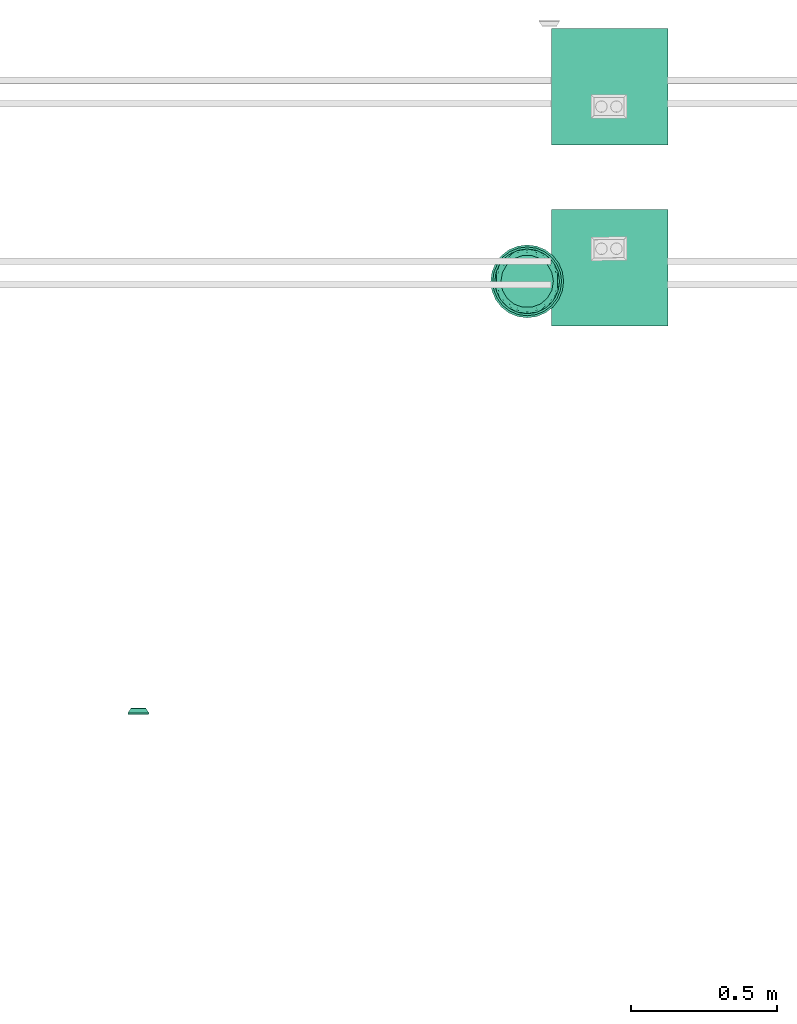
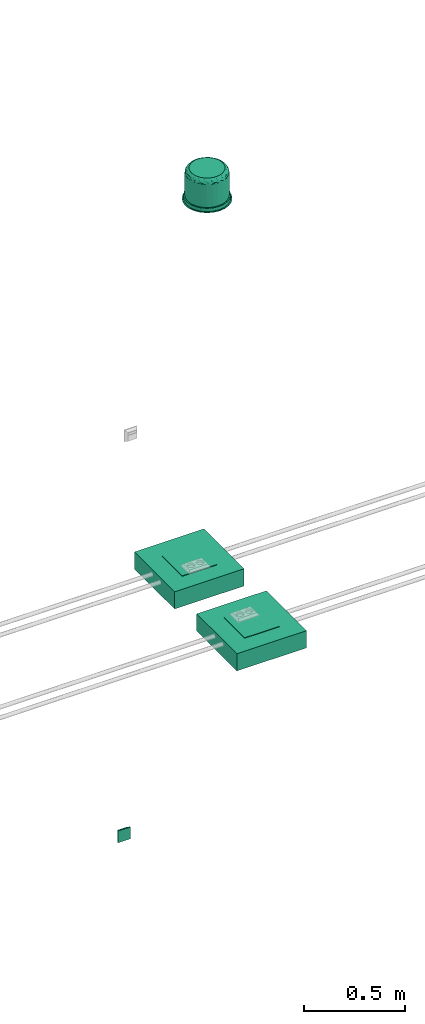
# One storey, part 15 of 24: 4 flow terminals.
"""IFC2X3 building model written with IfcOpenShell, lengths in millimetres."""

from ifc_helpers import new_model, entity, si_unit, converted_unit, derived_unit, direction, frame, origin_with_axes, place, context, subcontext, project, spatial, open_shell, surface_model, source, transform, mapped, type_object, element, save


model = new_model("IFC2X3")

# Units and contexts
model_context = context("Model", 3, precision=0.01, world=frame((0.0, 4.29681676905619e-09, 0.0)), true_north=direction((4.01073788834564e-13, 1.0)))
plan_context = context("Plan", 3, precision=0.01, world=frame((0.0, 4.29681676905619e-09, 0.0)), true_north=direction((4.01073788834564e-13, 1.0)))
body_context = subcontext(model_context, "Body", "Model", "MODEL_VIEW")
ifc_project = project(units=[converted_unit("PLANEANGLEUNIT", "DEGREE", entity("IfcPositiveLengthMeasure", 0.0174532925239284), si_unit("PLANEANGLEUNIT", "RADIAN"), dimensions=[0, 0, 0, 0, 0, 0, 0]), si_unit("AREAUNIT", "SQUARE_METRE"), si_unit("LENGTHUNIT", "METRE", prefix="MILLI"), si_unit("MASSUNIT", "GRAM", prefix="KILO"), si_unit("POWERUNIT", "WATT"), si_unit("PRESSUREUNIT", "PASCAL"), si_unit("FORCEUNIT", "NEWTON", prefix="KILO"), si_unit("ELECTRICVOLTAGEUNIT", "VOLT"), si_unit("ELECTRICCURRENTUNIT", "AMPERE"), si_unit("THERMODYNAMICTEMPERATUREUNIT", "DEGREE_CELSIUS"), si_unit("TIMEUNIT", "SECOND"), si_unit("VOLUMEUNIT", "CUBIC_METRE"), derived_unit("LINEARVELOCITYUNIT", [(si_unit("LENGTHUNIT", "METRE"), 1), (si_unit("TIMEUNIT", "SECOND"), -1)]), derived_unit("VOLUMETRICFLOWRATEUNIT", [(si_unit("VOLUMEUNIT", "CUBIC_METRE"), 1), (si_unit("TIMEUNIT", "SECOND"), -1)]), derived_unit("THERMALTRANSMITTANCEUNIT", [(si_unit("POWERUNIT", "WATT"), 1), (si_unit("THERMODYNAMICTEMPERATUREUNIT", "KELVIN"), -1), (si_unit("AREAUNIT", "SQUARE_METRE"), -1)]), derived_unit("SOUNDPRESSUREUNIT", [(si_unit("PRESSUREUNIT", "PASCAL"), 1)])], contexts=[model_context, plan_context])

# Site, building, storey
site_placement = place(None, frame((0.0, -4.29681676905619e-09, 0.0), z_axis=(0.0, 0.0, 1.0), x_axis=(1.0, 0.0, 0.0)))
site = spatial("IfcSite", under=ifc_project, at=site_placement, Name="ENGM", CompositionType="ELEMENT")
building_placement = place(site_placement, frame((0.0, 4.29681676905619e-09, 0.0), z_axis=(0.0, 0.0, 1.0), x_axis=(1.0, 0.0, 0.0)))
building = spatial("IfcBuilding", under=site, at=building_placement, Name="TH", CompositionType="ELEMENT")
storey_placement = place(building_placement, frame((0.0, 0.0, 210200.0), z_axis=(0.0, 0.0, 1.0), x_axis=(1.0, 0.0, 0.0)))
storey = spatial("IfcBuildingStorey", under=building, at=storey_placement, Name="Nivå F - 0,7 m", CompositionType="ELEMENT", Elevation=210200.0)

# Flow terminals
electric_appliance_type_1 = type_object("IfcElectricApplianceType", Name="Gulvboks 400x400", PredefinedType="NOTDEFINED")
shared_shape_1 = source(origin_with_axes(), body_context, "Body", "SurfaceModel", [
    surface_model("IfcShellBasedSurfaceModel", [(199.96, -199.96, -8.96812), (199.96, 200.0, -8.96812), (-200.0, 200.0, -8.96812), (-200.0, -199.96, -8.96812), (-200.0, -199.96, -108.96812), (-200.0, 200.0, -108.96812), (199.96, -199.96, -108.96812), (199.96, 200.0, -108.96812), (99.91278, -102.96181, -1.48406), (99.91278, 100.0, -1.48406), (-100.0, -102.96181, -1.48406), (-100.0, 100.0, -1.48406), (-100.0, -102.96181, -4.48406), (-100.0, 100.0, -4.48406), (99.91278, 100.0, -4.48406), (99.91278, -102.96181, -4.48406), (199.96, -199.96, -4.48406), (199.96, 200.0, -4.48406), (-200.0, 200.0, -4.48406), (-200.0, -199.96, -4.48406), (-200.0, -199.96, -104.48406), (-200.0, 200.0, -104.48406), (199.96, -199.96, -104.48406), (199.96, 200.0, -104.48406)], [open_shell([[[0, 1, 2]], [[2, 3, 0]], [[4, 5, 6]], [[7, 6, 5]], [[2, 1, 7]], [[7, 5, 2]], [[3, 2, 5]], [[5, 4, 3]], [[0, 3, 4]], [[4, 6, 0]], [[1, 0, 6]], [[6, 7, 1]], [[8, 9, 10]], [[11, 10, 9]], [[12, 13, 14]], [[14, 15, 12]], [[11, 9, 14]], [[14, 13, 11]], [[10, 11, 13]], [[13, 12, 10]], [[8, 10, 12]], [[12, 15, 8]], [[9, 8, 15]], [[15, 14, 9]], [[16, 17, 18]], [[18, 19, 16]], [[20, 21, 22]], [[23, 22, 21]], [[18, 17, 23]], [[23, 21, 18]], [[19, 18, 21]], [[21, 20, 19]], [[16, 19, 20]], [[20, 22, 16]], [[17, 16, 22]], [[22, 23, 17]]])]),
])
for number, where, z_axis, x_axis, name in (
    (1, (900999.725, 486999.56407, 1.5), (0.0, 0.0, 1.0), (1.0, 0.0, 0.0), "Gulvboks 400x400"),
    (2, (900999.725, 486379.56407, 1.5), (0.0, 0.0, 1.0), (1.0, 0.0, 0.0), "Gulvboks 400x400"),
):
    element("IfcFlowTerminal", number, at=place(storey_placement, frame(where, z_axis=z_axis, x_axis=x_axis)), inside=storey, type_object=electric_appliance_type_1, Name=name, context=body_context, shape_type="MappedRepresentation", body=[
        mapped(shared_shape_1, transform((0.0, 0.0, 0.0), scale=1.0)),
    ])
outlet_type = type_object("IfcOutletType", Name="Datauttak dobbel Vegg - IKT", PredefinedType="COMMUNICATIONSOUTLET")
shared_shape_2 = source(origin_with_axes(), body_context, "Body", "SurfaceModel", [
    surface_model("IfcShellBasedSurfaceModel", [(35.5, 5.05547, 35.5832), (25.5, 20.05547, 25.5832), (-35.5, 5.05547, 35.5832), (-25.5, 20.05547, 25.5832), (-35.5, 4.94453, 35.41679), (-25.5, 19.94453, 25.41679), (25.5, 19.94453, 25.41679), (35.5, 4.94453, 35.41679), (35.5, 4.94453, -35.41679), (25.5, 19.94453, -25.41679), (-35.5, 4.94453, -35.41679), (-25.5, 19.94453, -25.41679), (-35.5, 5.05547, -35.5832), (-25.5, 20.05547, -25.5832), (25.5, 20.05547, -25.5832), (35.5, 5.05547, -35.5832), (-25.5832, 20.05547, -25.5), (-35.5832, 5.05547, -35.5), (-35.5832, 5.05547, 35.5), (-25.5832, 20.05547, 25.5), (-25.41679, 19.94453, 25.5), (-35.41679, 4.94453, 35.5), (-25.41679, 19.94453, -25.5), (-35.41679, 4.94453, -35.5), (25.41679, 19.94453, -25.5), (35.41679, 4.94453, -35.5), (35.41679, 4.94453, 35.5), (25.41679, 19.94453, 25.5), (25.5832, 20.05547, 25.5), (35.5832, 5.05547, 35.5), (25.5832, 20.05547, -25.5), (35.5832, 5.05547, -35.5), (35.4, 5.0, -35.5), (35.4, 0.0, -35.5), (35.4, 0.0, 35.5), (35.4, 5.0, 35.5), (35.6, 5.0, 35.5), (35.6, 0.0, 35.5), (35.6, 0.0, -35.5), (35.6, 5.0, -35.5), (-35.5, 0.0, -35.6), (-35.5, 5.0, -35.6), (35.5, 5.0, -35.6), (35.5, 0.0, -35.6), (35.5, 0.0, -35.4), (35.5, 5.0, -35.4), (-35.5, 5.0, -35.4), (-35.5, 0.0, -35.4), (-35.6, 5.0, -35.5), (-35.6, 0.0, -35.5), (-35.6, 0.0, 35.5), (-35.6, 5.0, 35.5), (-35.4, 5.0, 35.5), (-35.4, 0.0, 35.5), (-35.4, 0.0, -35.5), (-35.4, 5.0, -35.5), (-35.5, -0.1, -35.5), (35.5, -0.1, -35.5), (35.5, -0.1, 35.5), (-35.5, -0.1, 35.5), (-35.5, 0.1, 35.5), (35.5, 0.1, 35.5), (35.5, 0.1, -35.5), (-35.5, 0.1, -35.5), (-35.5, 0.0, 35.4), (-35.5, 5.0, 35.4), (35.5, 5.0, 35.4), (35.5, 0.0, 35.4), (35.5, 0.0, 35.6), (35.5, 5.0, 35.6), (-35.5, 5.0, 35.6), (-35.5, 0.0, 35.6), (-25.5, 19.9, -25.5), (25.5, 19.9, -25.5), (25.5, 19.9, 25.5), (-25.5, 19.9, 25.5), (-25.5, 20.1, 25.5), (25.5, 20.1, 25.5), (25.5, 20.1, -25.5), (-25.5, 20.1, -25.5), (-17.5, 21.91, -6.5), (-2.5, 21.91, -6.5), (-17.5, 21.91, 8.5), (-2.5, 21.91, 8.5), (-17.5, 22.11, 8.5), (-2.5, 22.11, 8.5), (-17.5, 22.11, -6.5), (-2.5, 22.11, -6.5), (2.5, 21.91, -6.5), (17.5, 21.91, -6.5), (17.5, 21.91, 8.5), (2.5, 21.91, 8.5), (2.5, 22.11, 8.5), (17.5, 22.11, 8.5), (2.5, 22.11, -6.5), (17.5, 22.11, -6.5), (-25.5, 22.0, 25.5), (-25.5, 20.0, 25.5), (25.5, 20.0, 25.5), (25.5, 22.0, 25.5), (25.5, 22.0, 20.5), (25.5, 20.0, 20.5), (-25.5, 20.0, 20.5), (-25.5, 22.0, 20.5), (-25.5, 22.0, 10.5), (-25.5, 20.0, 10.5), (25.5, 20.0, 10.5), (25.5, 22.0, 10.5), (25.5, 22.0, -25.5), (25.5, 20.0, -25.5), (-25.5, 20.0, -25.5), (-25.5, 22.0, -25.5)], [open_shell([[[0, 1, 2]], [[3, 2, 1]], [[4, 5, 6]], [[6, 7, 4]], [[3, 1, 6]], [[6, 5, 3]], [[2, 3, 4]], [[5, 4, 3]], [[0, 2, 7]], [[4, 7, 2]], [[1, 0, 6]], [[7, 6, 0]], [[8, 9, 10]], [[11, 10, 9]], [[12, 13, 14]], [[14, 15, 12]], [[11, 9, 14]], [[14, 13, 11]], [[10, 11, 12]], [[13, 12, 11]], [[8, 10, 12]], [[12, 15, 8]], [[9, 8, 14]], [[15, 14, 8]], [[16, 17, 18]], [[18, 19, 16]], [[20, 21, 22]], [[23, 22, 21]], [[18, 17, 23]], [[23, 21, 18]], [[19, 18, 20]], [[21, 20, 18]], [[16, 19, 20]], [[20, 22, 16]], [[17, 16, 22]], [[22, 23, 17]], [[24, 25, 26]], [[26, 27, 24]], [[28, 29, 30]], [[31, 30, 29]], [[26, 25, 31]], [[31, 29, 26]], [[27, 26, 28]], [[29, 28, 26]], [[24, 27, 28]], [[28, 30, 24]], [[25, 24, 30]], [[30, 31, 25]], [[32, 33, 34]], [[34, 35, 32]], [[36, 37, 38]], [[38, 39, 36]], [[34, 33, 38]], [[38, 37, 34]], [[35, 34, 37]], [[37, 36, 35]], [[32, 35, 36]], [[36, 39, 32]], [[33, 32, 39]], [[39, 38, 33]], [[40, 41, 42]], [[42, 43, 40]], [[44, 45, 46]], [[46, 47, 44]], [[42, 41, 46]], [[46, 45, 42]], [[43, 42, 45]], [[45, 44, 43]], [[40, 43, 44]], [[44, 47, 40]], [[41, 40, 47]], [[47, 46, 41]], [[48, 49, 50]], [[50, 51, 48]], [[52, 53, 54]], [[54, 55, 52]], [[50, 49, 54]], [[54, 53, 50]], [[51, 50, 53]], [[53, 52, 51]], [[48, 51, 52]], [[52, 55, 48]], [[49, 48, 55]], [[55, 54, 49]], [[56, 57, 58]], [[58, 59, 56]], [[60, 61, 62]], [[62, 63, 60]], [[58, 57, 62]], [[62, 61, 58]], [[59, 58, 61]], [[61, 60, 59]], [[56, 59, 60]], [[60, 63, 56]], [[57, 56, 63]], [[63, 62, 57]], [[64, 65, 66]], [[66, 67, 64]], [[68, 69, 70]], [[70, 71, 68]], [[66, 65, 70]], [[70, 69, 66]], [[67, 66, 69]], [[69, 68, 67]], [[64, 67, 68]], [[68, 71, 64]], [[65, 64, 71]], [[71, 70, 65]], [[72, 73, 74]], [[74, 75, 72]], [[76, 77, 78]], [[78, 79, 76]], [[74, 73, 78]], [[78, 77, 74]], [[75, 74, 77]], [[77, 76, 75]], [[72, 75, 76]], [[76, 79, 72]], [[73, 72, 79]], [[79, 78, 73]], [[80, 81, 82]], [[83, 82, 81]], [[84, 85, 86]], [[87, 86, 85]], [[83, 81, 87]], [[87, 85, 83]], [[82, 83, 85]], [[85, 84, 82]], [[80, 82, 84]], [[84, 86, 80]], [[81, 80, 86]], [[86, 87, 81]], [[88, 89, 90]], [[90, 91, 88]], [[92, 93, 94]], [[95, 94, 93]], [[90, 89, 95]], [[95, 93, 90]], [[91, 90, 93]], [[93, 92, 91]], [[88, 91, 92]], [[92, 94, 88]], [[89, 88, 94]], [[94, 95, 89]], [[96, 97, 98]], [[98, 99, 96]], [[100, 101, 102]], [[102, 103, 100]], [[98, 97, 102]], [[102, 101, 98]], [[99, 98, 101]], [[101, 100, 99]], [[96, 99, 100]], [[100, 103, 96]], [[97, 96, 103]], [[103, 102, 97]], [[104, 105, 106]], [[106, 107, 104]], [[108, 109, 110]], [[110, 111, 108]], [[106, 105, 110]], [[110, 109, 106]], [[107, 106, 109]], [[109, 108, 107]], [[104, 107, 108]], [[108, 111, 104]], [[105, 104, 111]], [[111, 110, 105]]])]),
])
flow_terminal_1_placement = place(storey_placement, frame((899383.39199, 484848.26665, 200.0), z_axis=(0.0, 0.0, 1.0), x_axis=(1.0, 0.0, 0.0)))
element("IfcFlowTerminal", 3, at=flow_terminal_1_placement, inside=storey, type_object=outlet_type, Name="Datauttak dobbel Vegg - IKT", context=body_context, shape_type="MappedRepresentation", body=[
    mapped(shared_shape_2, transform((0.0, 0.0, 0.0), scale=1.0)),
])
electric_appliance_type_2 = type_object("IfcElectricApplianceType", Name="Høyttaler innfelt", PredefinedType="NOTDEFINED")
shared_shape_3 = source(origin_with_axes(), body_context, "Body", "SurfaceModel", [
    surface_model("IfcShellBasedSurfaceModel", [(-68.944, 57.85088, 184.0), (-58.59195, 79.97902, 179.50754), (-80.0329, 55.28406, 180.76938), (-78.29994, 75.83774, 166.88554), (-50.40099, 96.24365, 167.73947), (-65.24416, 89.80089, 159.0), (-45.0, 77.94229, 184.0), (104.29833, 0.0, 174.69059), (98.55658, 30.89802, 175.83351), (97.14917, 0.0, 179.3453), (-98.55658, 30.89802, 175.83351), (-104.29833, 0.0, 174.69059), (-97.14917, 0.0, 179.3453), (93.09772, 49.71788, 173.10261), (104.32878, 23.10743, 171.13623), (97.92626, 46.3605, 168.38431), (-15.62834, 88.6327, 184.0), (-30.79138, 92.23996, 180.78615), (-104.32878, 23.10743, 171.13623), (55.89313, 88.54638, 174.18746), (30.93861, 99.42219, 174.89528), (58.59195, 79.97902, 179.50754), (-97.92626, 46.3605, 168.38431), (-93.09772, 49.71788, 173.10261), (-61.47959, 85.0435, 173.90083), (-30.93861, 99.42219, 174.89528), (45.0, 77.94229, 184.0), (68.944, 57.85088, 184.0), (-84.57234, 30.78181, 184.0), (-92.49153, 28.27678, 181.10339), (-89.80089, 65.24416, 159.0), (17.39577, 107.47851, 167.19599), (34.30089, 105.56728, 159.0), (0.0, 111.0, 159.0), (-34.30089, 105.56728, 159.0), (-17.39574, 107.47094, 167.21376), (30.79138, 92.23996, 180.78615), (0.0, 99.14465, 179.50754), (15.62834, 88.6327, 184.0), (-81.90835, 64.40302, 174.81219), (0.05017, 105.30857, 173.41796), (80.0329, 55.28406, 180.76938), (84.57234, 30.78181, 184.0), (90.0, 0.0, 184.0), (92.49153, 28.27678, 181.10339), (50.40099, 96.24365, 167.73947), (89.80089, 65.24416, 159.0), (105.56728, 34.30089, 159.0), (65.24416, 89.80089, 159.0), (-105.56728, 34.30089, 159.0), (78.29994, 75.83774, 166.88554), (105.52114, 29.61929, 165.29825), (90.11049, 46.65977, 177.6147), (-90.11049, 46.65977, 177.6147), (-107.8502, 0.0, 166.3746), (-105.52114, 29.61929, 165.29825), (-90.0, 0.0, 184.0), (81.90835, 64.40302, 174.81219), (-111.0, 0.0, 159.0), (111.0, 0.0, 159.0), (107.8502, 0.0, 166.3746), (68.944, -57.85088, 184.0), (58.59195, -79.97902, 179.50754), (80.0329, -55.28406, 180.76938), (78.29994, -75.83774, 166.88554), (50.40099, -96.24365, 167.73947), (65.24416, -89.80089, 159.0), (45.0, -77.94229, 184.0), (-98.55658, -30.89802, 175.83351), (98.55658, -30.89802, 175.83351), (-93.09772, -49.71788, 173.10261), (-104.32878, -23.10743, 171.13623), (-97.92626, -46.3605, 168.38431), (15.62834, -88.6327, 184.0), (30.79138, -92.23996, 180.78615), (104.32878, -23.10743, 171.13623), (-55.89313, -88.54638, 174.18746), (-30.93861, -99.42219, 174.89528), (-58.59195, -79.97902, 179.50754), (97.92626, -46.3605, 168.38431), (93.09772, -49.71788, 173.10261), (61.47959, -85.0435, 173.90083), (30.93861, -99.42219, 174.89528), (-45.0, -77.94229, 184.0), (-68.944, -57.85088, 184.0), (84.57234, -30.78181, 184.0), (92.49153, -28.27678, 181.10339), (89.80089, -65.24416, 159.0), (-17.39577, -107.47851, 167.19599), (-34.30089, -105.56728, 159.0), (0.0, -111.0, 159.0), (34.30089, -105.56728, 159.0), (17.39574, -107.47094, 167.21376), (81.90835, -64.40302, 174.81219), (-30.79138, -92.23996, 180.78615), (-15.62834, -88.6327, 184.0), (0.0, -99.14465, 179.50754), (-0.05017, -105.30857, 173.41796), (-80.0329, -55.28406, 180.76938), (-84.57234, -30.78181, 184.0), (-92.49153, -28.27678, 181.10339), (-50.40099, -96.24365, 167.73947), (-89.80089, -65.24416, 159.0), (-105.56728, -34.30089, 159.0), (-65.24416, -89.80089, 159.0), (-78.29994, -75.83774, 166.88554), (-90.11049, -46.65977, 177.6147), (-105.52114, -29.61929, 165.29825), (105.56728, -34.30089, 159.0), (90.11049, -46.65977, 177.6147), (105.52114, -29.61929, 165.29825), (-81.90835, -64.40302, 174.81219), (0.0, 0.0, 159.0), (0.0, 0.0, 184.0), (96.12882, -55.5, 159.0), (28.72892, -107.21777, 159.0), (55.5, -96.12882, 159.0), (78.48885, -78.48885, 159.0), (107.21777, -28.72892, 159.0), (-78.48885, -78.48885, 159.0), (-96.12882, 55.5, 159.0), (-55.5, -96.12882, 159.0), (-28.72892, -107.21777, 159.0), (-96.12882, -55.5, 159.0), (-107.21777, -28.72892, 159.0), (107.21777, 28.72892, 159.0), (55.5, 96.12882, 159.0), (96.12882, 55.5, 159.0), (78.48885, 78.48885, 159.0), (28.72892, 107.21777, 159.0), (-28.72892, 107.21777, 159.0), (-107.21777, 28.72892, 159.0), (-78.48885, 78.48885, 159.0), (-55.5, 96.12882, 159.0), (28.72892, 107.21777, 20.0), (-28.72892, 107.21777, 20.0), (0.0, 111.0, 20.0), (96.12882, 55.5, 20.0), (55.5, 96.12882, 20.0), (107.21777, 28.72892, 20.0), (78.48885, 78.48885, 20.0), (-96.12882, 55.5, 20.0), (-78.48885, 78.48885, 20.0), (-55.5, 96.12882, 20.0), (-107.21777, 28.72892, 20.0), (-96.12882, -55.5, 20.0), (-111.0, 0.0, 20.0), (-78.48885, -78.48885, 20.0), (111.0, 0.0, 20.0), (107.21777, -28.72892, 20.0), (96.12882, -55.5, 20.0), (28.72892, -107.21777, 20.0), (55.5, -96.12882, 20.0), (78.48885, -78.48885, 20.0), (-107.21777, -28.72892, 20.0), (-55.5, -96.12882, 20.0), (0.0, -111.0, 20.0), (-28.72892, -107.21777, 20.0), (0.0, -118.0, 20.0), (30.54065, -113.97924, 20.0), (59.0, -102.191, 20.0), (83.4386, -83.4386, 20.0), (102.191, -59.0, 20.0), (113.97924, -30.54065, 20.0), (118.0, 0.0, 20.0), (-30.54065, -113.97924, 20.0), (-83.4386, -83.4386, 20.0), (-59.0, -102.191, 20.0), (-118.0, 0.0, 20.0), (-102.191, -59.0, 20.0), (-113.97924, -30.54065, 20.0), (113.97924, 30.54065, 20.0), (102.191, 59.0, 20.0), (83.4386, 83.4386, 20.0), (59.0, 102.191, 20.0), (30.54065, 113.97924, 20.0), (0.0, 118.0, 20.0), (-30.54065, 113.97924, 20.0), (-102.191, 59.0, 20.0), (-113.97924, 30.54065, 20.0), (-83.4386, 83.4386, 20.0), (-59.0, 102.191, 20.0), (0.0, 118.0, 0.0), (30.54065, 113.97924, 0.0), (59.0, 102.191, 0.0), (-83.4386, 83.4386, 0.0), (83.4386, 83.4386, 0.0), (102.191, 59.0, 0.0), (113.97924, 30.54065, 0.0), (-118.0, 0.0, 0.0), (-113.97924, -30.54065, 0.0), (-30.54065, 113.97924, 0.0), (-59.0, 102.191, 0.0), (-102.191, 59.0, 0.0), (-113.97924, 30.54065, 0.0), (118.0, 0.0, 0.0), (113.97924, -30.54065, 0.0), (102.191, -59.0, 0.0), (83.4386, -83.4386, 0.0), (59.0, -102.191, 0.0), (30.54065, -113.97924, 0.0), (-83.4386, -83.4386, 0.0), (-102.191, -59.0, 0.0), (-30.54065, -113.97924, 0.0), (-59.0, -102.191, 0.0), (0.0, -118.0, 0.0), (-32.35238, 120.74073, 0.0), (-62.5, 108.25318, 0.0), (-88.38835, 88.38835, 0.0), (-108.25318, 62.5, 0.0), (-120.74073, 32.35238, 0.0), (62.5, 108.25318, 0.0), (-125.0, 0.0, 0.0), (0.0, 125.0, 0.0), (32.35238, 120.74073, 0.0), (88.38835, 88.38835, 0.0), (120.74073, 32.35238, 0.0), (108.25318, 62.5, 0.0), (-120.74073, -32.35238, 0.0), (125.0, 0.0, 0.0), (-108.25318, -62.5, 0.0), (-32.35238, -120.74073, 0.0), (-88.38835, -88.38835, 0.0), (-62.5, -108.25318, 0.0), (0.0, -125.0, 0.0), (120.74073, -32.35238, 0.0), (88.38835, -88.38835, 0.0), (108.25318, -62.5, 0.0), (32.35238, -120.74073, 0.0), (62.5, -108.25318, 0.0), (-32.35238, -120.74073, -3.0), (88.38835, -88.38835, -3.0), (0.0, -125.0, -3.0), (-88.38835, -88.38835, -3.0), (-62.5, -108.25318, -3.0), (-108.25318, -62.5, -3.0), (-120.74073, -32.35238, -3.0), (88.38835, 88.38835, -3.0), (32.35238, -120.74073, -3.0), (62.5, -108.25318, -3.0), (120.74073, -32.35238, -3.0), (108.25318, -62.5, -3.0), (125.0, 0.0, -3.0), (-125.0, 0.0, -3.0), (-120.74073, 32.35238, -3.0), (-32.35238, 120.74073, -3.0), (-108.25318, 62.5, -3.0), (-88.38835, 88.38835, -3.0), (-62.5, 108.25318, -3.0), (120.74073, 32.35238, -3.0), (108.25318, 62.5, -3.0), (62.5, 108.25318, -3.0), (0.0, 125.0, -3.0), (32.35238, 120.74073, -3.0), (-84.57234, 30.78181, -6.0), (-102.5, 0.0, -5.0), (-96.31849, 35.05706, -5.0), (-45.0, 77.94229, -6.0), (-78.51955, 65.88573, -5.0), (-51.25, 88.7676, -5.0), (-68.944, 57.85088, -6.0), (-17.79894, 100.94279, -5.0), (-15.62834, 88.6327, -6.0), (-90.0, 0.0, -6.0), (15.62834, 88.6327, -6.0), (45.0, 77.94229, -6.0), (17.79894, 100.94279, -5.0), (51.25, 88.7676, -5.0), (96.31849, 35.05706, -5.0), (102.5, 0.0, -5.0), (90.0, 0.0, -6.0), (78.51955, 65.88573, -5.0), (68.944, 57.85088, -6.0), (84.57234, 30.78181, -6.0), (84.57234, -30.78181, -6.0), (96.31849, -35.05706, -5.0), (45.0, -77.94229, -6.0), (78.51955, -65.88573, -5.0), (51.25, -88.7676, -5.0), (68.944, -57.85088, -6.0), (17.79894, -100.94279, -5.0), (15.62834, -88.6327, -6.0), (-15.62834, -88.6327, -6.0), (-45.0, -77.94229, -6.0), (-17.79894, -100.94279, -5.0), (-51.25, -88.7676, -5.0), (-84.57234, -30.78181, -6.0), (-78.51955, -65.88573, -5.0), (-96.31849, -35.05706, -5.0), (-68.944, -57.85088, -6.0), (0.0, 0.0, -6.0), (106.99386, 34.76441, -3.0), (0.0, 0.0, -3.0), (112.5, 0.0, -3.0), (91.01441, 66.12584, -3.0), (66.12584, 91.01441, -3.0), (34.76441, 106.99386, -3.0), (0.0, 112.5, -3.0), (-91.01441, 66.12584, -3.0), (-106.99386, 34.76441, -3.0), (-66.12584, 91.01441, -3.0), (-34.76441, 106.99386, -3.0), (-112.5, 0.0, -3.0), (66.12584, -91.01441, -3.0), (91.01441, -66.12584, -3.0), (34.76441, -106.99386, -3.0), (106.99386, -34.76441, -3.0), (0.0, -112.5, -3.0), (-66.12584, -91.01441, -3.0), (-34.76441, -106.99386, -3.0), (-91.01441, -66.12584, -3.0), (-106.99386, -34.76441, -3.0)], [open_shell([[[0, 1, 2]], [[3, 4, 5]], [[0, 6, 1]], [[7, 8, 9]], [[10, 11, 12]], [[13, 14, 15]], [[7, 14, 8]], [[6, 16, 17]], [[18, 11, 10]], [[19, 20, 21]], [[22, 23, 3]], [[24, 25, 4]], [[26, 27, 21]], [[28, 2, 29]], [[3, 5, 30]], [[31, 32, 33]], [[33, 34, 35]], [[36, 37, 38]], [[4, 35, 34]], [[1, 24, 39]], [[26, 36, 38]], [[17, 37, 25]], [[20, 31, 40]], [[21, 20, 36]], [[41, 21, 27]], [[41, 27, 42]], [[0, 2, 28]], [[43, 9, 44]], [[20, 19, 45]], [[46, 15, 47]], [[17, 1, 6]], [[31, 20, 45]], [[48, 32, 45]], [[30, 49, 22]], [[34, 5, 4]], [[15, 46, 50]], [[14, 51, 15]], [[48, 50, 46]], [[33, 35, 31]], [[8, 13, 52]], [[2, 39, 53]], [[37, 16, 38]], [[54, 18, 55]], [[28, 29, 56]], [[45, 19, 50]], [[37, 17, 16]], [[1, 17, 25]], [[21, 36, 26]], [[37, 36, 20]], [[1, 39, 2]], [[23, 53, 39]], [[44, 41, 42]], [[57, 21, 41]], [[10, 12, 29]], [[22, 18, 23]], [[13, 8, 14]], [[52, 41, 44]], [[4, 25, 35]], [[25, 37, 40]], [[31, 35, 40]], [[45, 32, 31]], [[22, 3, 30]], [[3, 39, 24]], [[45, 50, 48]], [[50, 57, 13]], [[58, 54, 55]], [[23, 18, 10]], [[59, 47, 51]], [[56, 29, 12]], [[43, 44, 42]], [[8, 44, 9]], [[25, 40, 35]], [[20, 40, 37]], [[25, 24, 1]], [[3, 24, 4]], [[21, 57, 19]], [[50, 19, 57]], [[53, 23, 10]], [[3, 23, 39]], [[10, 29, 53]], [[2, 53, 29]], [[50, 13, 15]], [[52, 13, 57]], [[41, 52, 57]], [[44, 8, 52]], [[55, 18, 22]], [[54, 11, 18]], [[22, 49, 55]], [[55, 49, 58]], [[7, 60, 14]], [[60, 59, 51]], [[60, 51, 14]], [[47, 15, 51]], [[61, 62, 63]], [[64, 65, 66]], [[61, 67, 62]], [[11, 68, 12]], [[69, 7, 9]], [[70, 71, 72]], [[11, 71, 68]], [[67, 73, 74]], [[75, 7, 69]], [[76, 77, 78]], [[79, 80, 64]], [[81, 82, 65]], [[83, 84, 78]], [[85, 63, 86]], [[64, 66, 87]], [[88, 89, 90]], [[90, 91, 92]], [[91, 66, 65]], [[65, 92, 91]], [[62, 81, 93]], [[83, 94, 95]], [[74, 96, 82]], [[77, 88, 97]], [[78, 77, 94]], [[98, 78, 84]], [[98, 84, 99]], [[61, 63, 85]], [[56, 12, 100]], [[77, 76, 101]], [[102, 72, 103]], [[104, 105, 102]], [[88, 77, 101]], [[104, 89, 101]], [[68, 70, 106]], [[74, 62, 67]], [[72, 102, 105]], [[71, 107, 72]], [[87, 108, 79]], [[90, 92, 88]], [[94, 96, 95]], [[63, 93, 109]], [[96, 73, 95]], [[60, 75, 110]], [[85, 86, 43]], [[101, 76, 105]], [[96, 74, 73]], [[62, 74, 82]], [[78, 94, 83]], [[96, 94, 77]], [[62, 93, 63]], [[80, 109, 93]], [[100, 98, 99]], [[111, 78, 98]], [[69, 9, 86]], [[79, 75, 80]], [[70, 68, 71]], [[106, 98, 100]], [[65, 82, 92]], [[82, 96, 97]], [[88, 92, 97]], [[101, 89, 88]], [[79, 64, 87]], [[64, 93, 81]], [[101, 105, 104]], [[105, 111, 70]], [[59, 60, 110]], [[80, 75, 69]], [[58, 103, 107]], [[43, 86, 9]], [[56, 100, 99]], [[68, 100, 12]], [[82, 97, 92]], [[77, 97, 96]], [[82, 81, 62]], [[64, 81, 65]], [[78, 111, 76]], [[105, 76, 111]], [[109, 80, 69]], [[64, 80, 93]], [[69, 86, 109]], [[63, 109, 86]], [[105, 70, 72]], [[106, 70, 111]], [[98, 106, 111]], [[100, 68, 106]], [[110, 75, 79]], [[60, 7, 75]], [[79, 108, 110]], [[110, 108, 59]], [[11, 54, 71]], [[54, 58, 107]], [[54, 107, 71]], [[103, 72, 107]], [[59, 112, 47]], [[47, 112, 46]], [[112, 48, 46]], [[48, 112, 32]], [[112, 33, 32]], [[112, 49, 30]], [[30, 5, 112]], [[34, 33, 112]], [[112, 5, 34]], [[112, 58, 49]], [[112, 87, 66]], [[112, 66, 91]], [[112, 108, 87]], [[59, 108, 112]], [[91, 90, 112]], [[112, 89, 104]], [[112, 104, 102]], [[112, 103, 58]], [[103, 112, 102]], [[89, 112, 90]], [[27, 113, 42]], [[26, 113, 27]], [[113, 26, 38]], [[113, 43, 42]], [[28, 56, 113]], [[0, 28, 113]], [[16, 6, 113]], [[0, 113, 6]], [[38, 16, 113]], [[67, 61, 113]], [[61, 85, 113]], [[113, 85, 43]], [[73, 67, 113]], [[83, 95, 113]], [[84, 83, 113]], [[56, 99, 113]], [[84, 113, 99]], [[73, 113, 95]], [[114, 115, 116]], [[114, 116, 117]], [[114, 118, 59]], [[114, 59, 115]], [[119, 115, 120]], [[90, 121, 122]], [[90, 115, 121]], [[123, 58, 124]], [[121, 115, 119]], [[123, 119, 58]], [[125, 115, 59]], [[126, 125, 127]], [[126, 127, 128]], [[125, 129, 120]], [[129, 125, 126]], [[130, 129, 33]], [[119, 131, 58]], [[120, 131, 119]], [[132, 130, 133]], [[130, 132, 120]], [[129, 130, 120]], [[120, 115, 125]], [[134, 135, 136]], [[137, 134, 138]], [[137, 139, 134]], [[137, 138, 140]], [[141, 134, 139]], [[135, 142, 143]], [[142, 135, 141]], [[144, 145, 146]], [[141, 135, 134]], [[144, 141, 145]], [[141, 139, 147]], [[148, 149, 150]], [[150, 151, 139]], [[152, 151, 150]], [[152, 150, 153]], [[139, 151, 147]], [[146, 145, 154]], [[147, 145, 141]], [[155, 156, 157]], [[155, 147, 151]], [[156, 155, 151]], [[139, 148, 150]], [[124, 154, 145]], [[147, 123, 145]], [[121, 155, 157]], [[147, 155, 119]], [[122, 157, 156]], [[154, 58, 146]], [[154, 124, 58]], [[145, 123, 124]], [[147, 119, 123]], [[121, 119, 155]], [[157, 122, 121]], [[156, 90, 122]], [[115, 151, 152]], [[153, 116, 152]], [[114, 150, 149]], [[153, 150, 117]], [[118, 149, 148]], [[151, 115, 90]], [[152, 116, 115]], [[153, 117, 116]], [[150, 114, 117]], [[118, 114, 149]], [[148, 59, 118]], [[151, 90, 156]], [[125, 148, 139]], [[127, 139, 137]], [[126, 138, 134]], [[129, 134, 136]], [[139, 127, 125]], [[125, 59, 148]], [[140, 128, 127]], [[140, 138, 128]], [[128, 138, 126]], [[134, 129, 126]], [[140, 127, 137]], [[136, 33, 129]], [[130, 135, 143]], [[142, 133, 143]], [[120, 141, 144]], [[142, 141, 132]], [[131, 144, 146]], [[135, 130, 33]], [[143, 133, 130]], [[142, 132, 133]], [[141, 120, 132]], [[131, 120, 144]], [[146, 58, 131]], [[135, 33, 136]], [[158, 159, 160]], [[161, 158, 160]], [[162, 163, 164]], [[158, 161, 162]], [[158, 162, 164]], [[165, 166, 167]], [[166, 165, 158]], [[164, 166, 158]], [[166, 168, 169]], [[169, 168, 170]], [[168, 166, 164]], [[171, 172, 173]], [[168, 171, 173]], [[174, 175, 176]], [[168, 173, 174]], [[177, 174, 176]], [[168, 178, 179]], [[178, 168, 177]], [[180, 177, 181]], [[177, 180, 178]], [[168, 174, 177]], [[171, 168, 164]], [[182, 183, 184]], [[185, 182, 184]], [[186, 187, 188]], [[189, 184, 186]], [[190, 189, 186]], [[191, 185, 192]], [[191, 182, 185]], [[193, 189, 194]], [[185, 184, 193]], [[184, 189, 193]], [[186, 188, 190]], [[195, 196, 197]], [[197, 198, 188]], [[190, 198, 199]], [[198, 190, 188]], [[200, 190, 199]], [[200, 201, 202]], [[202, 190, 200]], [[201, 203, 204]], [[203, 201, 205]], [[205, 201, 200]], [[188, 195, 197]], [[190, 170, 189]], [[202, 169, 190]], [[167, 201, 204]], [[202, 201, 166]], [[165, 204, 203]], [[190, 169, 170]], [[170, 168, 189]], [[165, 167, 204]], [[166, 201, 167]], [[166, 169, 202]], [[158, 165, 203]], [[203, 205, 158]], [[200, 159, 205]], [[199, 160, 200]], [[162, 198, 197]], [[199, 198, 161]], [[163, 197, 196]], [[199, 161, 160]], [[160, 159, 200]], [[164, 163, 196]], [[162, 197, 163]], [[162, 161, 198]], [[195, 164, 196]], [[205, 159, 158]], [[188, 171, 195]], [[187, 172, 188]], [[174, 186, 184]], [[187, 186, 173]], [[175, 184, 183]], [[188, 172, 171]], [[171, 164, 195]], [[175, 174, 184]], [[173, 186, 174]], [[173, 172, 187]], [[176, 175, 183]], [[183, 182, 176]], [[191, 177, 182]], [[192, 181, 191]], [[179, 194, 189]], [[185, 180, 192]], [[192, 180, 181]], [[181, 177, 191]], [[193, 178, 180]], [[193, 194, 178]], [[178, 194, 179]], [[189, 168, 179]], [[193, 180, 185]], [[182, 177, 176]], [[206, 207, 208]], [[206, 208, 209]], [[206, 210, 211]], [[210, 206, 209]], [[211, 210, 212]], [[213, 211, 214]], [[213, 206, 211]], [[215, 216, 217]], [[218, 215, 211]], [[219, 216, 215]], [[218, 211, 212]], [[220, 219, 218]], [[221, 220, 222]], [[220, 221, 219]], [[221, 222, 223]], [[224, 219, 221]], [[225, 226, 227]], [[226, 225, 219]], [[226, 228, 229]], [[228, 226, 219]], [[219, 224, 228]], [[218, 219, 215]], [[230, 231, 232]], [[233, 230, 234]], [[235, 236, 230]], [[235, 230, 233]], [[230, 237, 231]], [[238, 231, 239]], [[238, 232, 231]], [[231, 240, 241]], [[240, 231, 242]], [[231, 237, 242]], [[230, 236, 243]], [[244, 237, 243]], [[245, 244, 246]], [[247, 248, 245]], [[247, 245, 246]], [[237, 244, 245]], [[249, 237, 250]], [[242, 237, 249]], [[251, 252, 253]], [[252, 251, 237]], [[245, 252, 237]], [[237, 230, 243]], [[249, 216, 242]], [[250, 217, 249]], [[211, 237, 251]], [[250, 237, 215]], [[214, 251, 253]], [[249, 217, 216]], [[216, 219, 242]], [[214, 211, 251]], [[215, 237, 211]], [[215, 217, 250]], [[213, 214, 253]], [[253, 252, 213]], [[245, 206, 252]], [[248, 207, 245]], [[209, 247, 246]], [[248, 247, 208]], [[210, 246, 244]], [[248, 208, 207]], [[207, 206, 245]], [[212, 210, 244]], [[209, 246, 210]], [[209, 208, 247]], [[243, 212, 244]], [[252, 206, 213]], [[236, 218, 243]], [[235, 220, 236]], [[223, 233, 234]], [[235, 233, 222]], [[221, 234, 230]], [[236, 220, 218]], [[218, 212, 243]], [[221, 223, 234]], [[222, 233, 223]], [[222, 220, 235]], [[224, 221, 230]], [[230, 232, 224]], [[228, 232, 238]], [[239, 229, 238]], [[227, 241, 240]], [[225, 240, 242]], [[239, 226, 229]], [[229, 228, 238]], [[231, 227, 226]], [[231, 241, 227]], [[227, 240, 225]], [[242, 219, 225]], [[231, 226, 239]], [[232, 228, 224]], [[254, 255, 256]], [[257, 258, 259]], [[256, 258, 260]], [[259, 261, 262]], [[263, 255, 254]], [[258, 257, 260]], [[260, 254, 256]], [[257, 259, 262]], [[261, 264, 262]], [[265, 266, 267]], [[268, 269, 270]], [[267, 271, 272]], [[268, 272, 271]], [[264, 266, 265]], [[265, 267, 272]], [[270, 273, 268]], [[268, 273, 272]], [[266, 264, 261]], [[274, 269, 275]], [[276, 277, 278]], [[275, 277, 279]], [[278, 280, 281]], [[270, 269, 274]], [[277, 276, 279]], [[279, 274, 275]], [[276, 278, 281]], [[280, 282, 281]], [[283, 284, 285]], [[286, 287, 288]], [[285, 287, 289]], [[288, 255, 263]], [[282, 284, 283]], [[287, 286, 289]], [[289, 283, 285]], [[286, 288, 263]], [[284, 282, 280]], [[273, 290, 272]], [[272, 290, 265]], [[264, 265, 290]], [[273, 270, 290]], [[290, 263, 254]], [[290, 254, 260]], [[290, 257, 262]], [[257, 290, 260]], [[290, 262, 264]], [[290, 279, 276]], [[290, 274, 279]], [[270, 274, 290]], [[290, 276, 281]], [[290, 282, 283]], [[290, 283, 289]], [[290, 286, 263]], [[286, 290, 289]], [[282, 290, 281]], [[291, 292, 293]], [[294, 292, 291]], [[294, 295, 292]], [[296, 292, 295]], [[296, 297, 292]], [[298, 299, 292]], [[292, 300, 298]], [[292, 297, 301]], [[301, 300, 292]], [[299, 302, 292]], [[303, 304, 292]], [[305, 303, 292]], [[304, 306, 292]], [[292, 306, 293]], [[292, 307, 305]], [[308, 309, 292]], [[310, 308, 292]], [[302, 311, 292]], [[310, 292, 311]], [[307, 292, 309]], [[255, 302, 299]], [[258, 298, 300]], [[299, 298, 256]], [[300, 301, 259]], [[255, 299, 256]], [[300, 259, 258]], [[258, 256, 298]], [[259, 301, 261]], [[301, 297, 261]], [[266, 297, 296]], [[291, 293, 269]], [[267, 296, 295]], [[295, 271, 267]], [[267, 266, 296]], [[291, 268, 294]], [[268, 291, 269]], [[294, 268, 271]], [[294, 271, 295]], [[297, 266, 261]], [[269, 293, 306]], [[277, 304, 303]], [[306, 304, 275]], [[303, 305, 278]], [[269, 306, 275]], [[303, 278, 277]], [[277, 275, 304]], [[278, 305, 280]], [[305, 307, 280]], [[284, 307, 309]], [[287, 308, 310]], [[309, 308, 285]], [[310, 311, 288]], [[308, 287, 285]], [[285, 284, 309]], [[311, 255, 288]], [[288, 287, 310]], [[311, 302, 255]], [[307, 284, 280]]])]),
])
flow_terminal_2_placement = place(storey_placement, frame((900716.5, 486332.65, 2700.0), z_axis=(0.0, 0.0, 1.0), x_axis=(1.0, 0.0, 0.0)))
element("IfcFlowTerminal", 4, at=flow_terminal_2_placement, inside=storey, type_object=electric_appliance_type_2, Name="Høyttaler innfelt", context=body_context, shape_type="MappedRepresentation", body=[
    mapped(shared_shape_3, transform((0.0, 0.0, 0.0), scale=1.0)),
])

save(model, "model.ifc")
